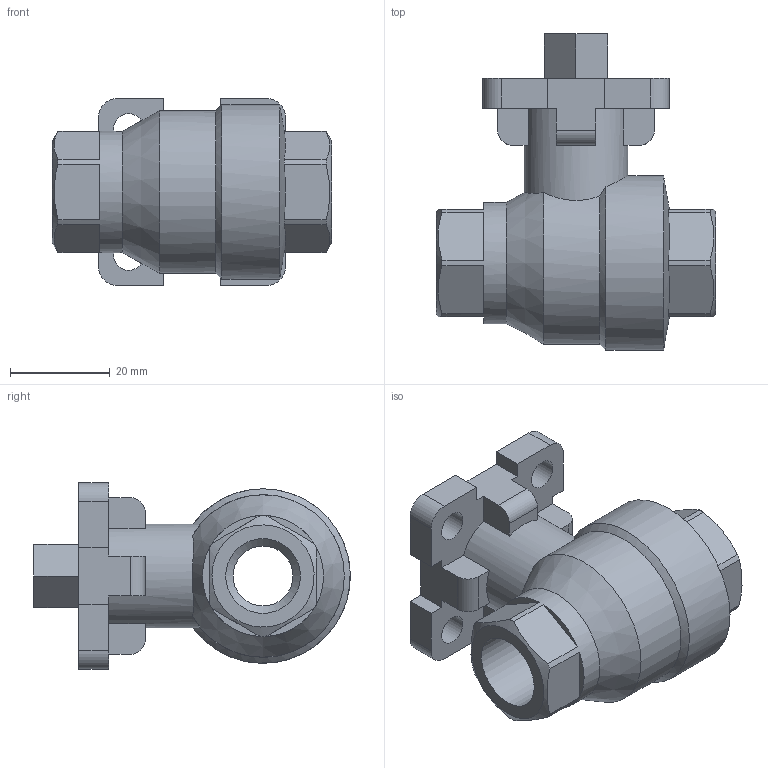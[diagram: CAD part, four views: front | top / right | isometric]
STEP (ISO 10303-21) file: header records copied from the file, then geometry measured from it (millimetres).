
FILE_DESCRIPTION (( 'STEP AP203' ), '1' );
FILE_NAME ('B3.622I0100FVPB0.STEP', '2018-09-27T15:14:04', ( 'dell2' ), ( 'Microsoft' ), 'SwSTEP 2.0', 'SolidWorks 2014', '' );
FILE_SCHEMA (( 'CONFIG_CONTROL_DESIGN' ));
Length unit declared in the file: millimetre
Products named in the file (1): B3.622I0100FVPB0
Bounding box: 56 x 63.5 x 37.5 mm (x, y, z)
Volume: 42977.5 mm3; surface area: 13241.2 mm2
Topology: 1 solids, 1 shells, 94 faces, 269 edges, 178 vertices
Faces by surface type: plane 62, cylinder 25, cone 7
Full cylindrical faces by diameter (mm): 6 x4, 12 x1, 15 x2, 20.8 x1, 24.3 x1, 35 x1
Entity records: 3213 total; most frequent: CARTESIAN_POINT 770, ORIENTED_EDGE 486, DIRECTION 478, EDGE_CURVE 243, VERTEX_POINT 168, AXIS2_PLACEMENT_3D 164, VECTOR 150, LINE 150
